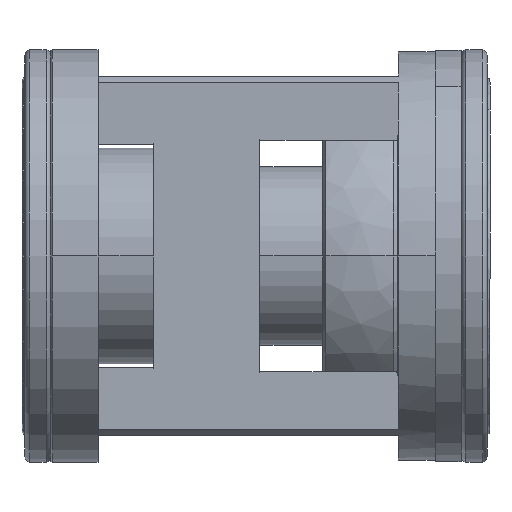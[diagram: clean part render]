
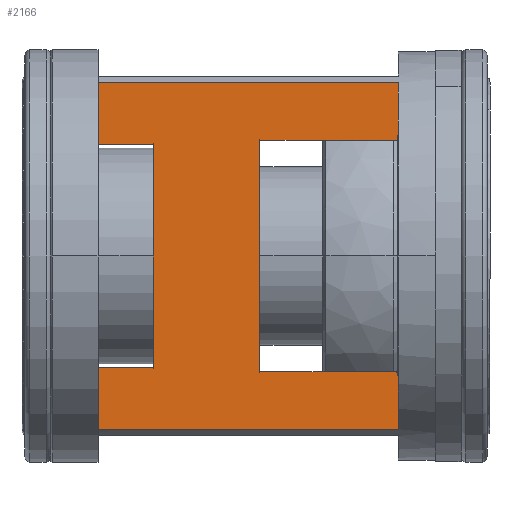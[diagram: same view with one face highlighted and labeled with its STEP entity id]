
A CAD part, front view. The second image highlights one B-rep face of the part: STEP entity #2166.
In plain terms, the highlighted planar face has unit normal (0, -1, 0).
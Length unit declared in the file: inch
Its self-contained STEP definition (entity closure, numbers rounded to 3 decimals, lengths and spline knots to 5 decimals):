
#21 = VERTEX_POINT ( 'NONE', #7694 ) ;
#26 = CARTESIAN_POINT ( 'NONE',  ( -0.76326, -0.38024, 0.17333 ) ) ;
#32 = VERTEX_POINT ( 'NONE', #2646 ) ;
#38 = CARTESIAN_POINT ( 'NONE',  ( 0.28208, -0.38024, -0.32809 ) ) ;
#117 = CARTESIAN_POINT ( 'NONE',  ( -0.99926, -0.38024, 0.65164 ) ) ;
#130 = DIRECTION ( 'NONE',  ( 0., 0., 1. ) ) ;
#176 = VERTEX_POINT ( 'NONE', #2842 ) ;
#219 = VECTOR ( 'NONE', #130, 39.37008 ) ;
#300 = ORIENTED_EDGE ( 'NONE', *, *, #5657, .F. ) ;
#435 = LINE ( 'NONE', #2371, #5883 ) ;
#444 = AXIS2_PLACEMENT_3D ( 'NONE', #484, #7512, #1747 ) ;
#453 = DIRECTION ( 'NONE',  ( -1., 0., 0. ) ) ;
#478 = B_SPLINE_CURVE_WITH_KNOTS ( 'NONE', 3,
 ( #4190, #3559, #6740, #2962 ),
 .UNSPECIFIED., .F., .F.,
 ( 4, 4 ),
 ( 0., 0.00017 ),
 .UNSPECIFIED. ) ;
#484 = CARTESIAN_POINT ( 'NONE',  ( 0.28874, -0.38024, -0.62688 ) ) ;
#494 = VERTEX_POINT ( 'NONE', #4410 ) ;
#651 = VECTOR ( 'NONE', #8119, 39.37008 ) ;
#668 = ORIENTED_EDGE ( 'NONE', *, *, #4785, .T. ) ;
#841 = VERTEX_POINT ( 'NONE', #7089 ) ;
#901 = VECTOR ( 'NONE', #3096, 39.37008 ) ;
#1058 = DIRECTION ( 'NONE',  ( -1., 0., 0. ) ) ;
#1083 = ORIENTED_EDGE ( 'NONE', *, *, #3956, .F. ) ;
#1108 = ORIENTED_EDGE ( 'NONE', *, *, #3048, .F. ) ;
#1216 = VERTEX_POINT ( 'NONE', #1866 ) ;
#1230 = DIRECTION ( 'NONE',  ( 0., 0., 1. ) ) ;
#1242 = CARTESIAN_POINT ( 'NONE',  ( 0.28127, -0.38024, -0.32613 ) ) ;
#1254 = EDGE_CURVE ( 'NONE', #2270, #7342, #7718, .T. ) ;
#1349 = VERTEX_POINT ( 'NONE', #4849 ) ;
#1422 = EDGE_LOOP ( 'NONE', ( #3686, #300, #8128, #668, #4149, #6697, #3393, #4501, #1083, #2489, #1108, #1818, #3875, #3966, #6003, #6166, #3760 ) ) ;
#1441 = CARTESIAN_POINT ( 'NONE',  ( 0.28874, -0.38024, -0.62688 ) ) ;
#1573 = EDGE_CURVE ( 'NONE', #176, #1216, #2136, .T. ) ;
#1709 = DIRECTION ( 'NONE',  ( -1., 0., 0. ) ) ;
#1744 = DIRECTION ( 'NONE',  ( 1., 0., 0. ) ) ;
#1747 = DIRECTION ( 'NONE',  ( 1., 0., 0. ) ) ;
#1818 = ORIENTED_EDGE ( 'NONE', *, *, #4847, .F. ) ;
#1866 = CARTESIAN_POINT ( 'NONE',  ( 0.27966, -0.38024, -0.32221 ) ) ;
#1878 = CARTESIAN_POINT ( 'NONE',  ( 0.28607, -0.38024, -0.33772 ) ) ;
#1914 = VERTEX_POINT ( 'NONE', #6715 ) ;
#1921 = CARTESIAN_POINT ( 'NONE',  ( 0.28874, -0.38024, -0.34411 ) ) ;
#1968 = LINE ( 'NONE', #4542, #901 ) ;
#2080 = LINE ( 'NONE', #5902, #5678 ) ;
#2136 = B_SPLINE_CURVE_WITH_KNOTS ( 'NONE', 3,
 ( #1921, #3736, #1878, #7054, #4456, #3224, #38, #1242, #5788, #3821 ),
 .UNSPECIFIED., .F., .F.,
 ( 4, 3, 3, 4 ),
 ( 0., 0.00026, 0.00044, 0.0006 ),
 .UNSPECIFIED. ) ;
#2166 = ADVANCED_FACE ( 'NONE', ( #4949 ), #4452, .T. ) ;
#2222 = VECTOR ( 'NONE', #5840, 39.37008 ) ;
#2247 = VECTOR ( 'NONE', #3868, 39.37008 ) ;
#2270 = VERTEX_POINT ( 'NONE', #2375 ) ;
#2278 = CARTESIAN_POINT ( 'NONE',  ( -0.99926, -0.38024, -0.62688 ) ) ;
#2330 = VERTEX_POINT ( 'NONE', #117 ) ;
#2371 = CARTESIAN_POINT ( 'NONE',  ( -0.89626, -0.38024, -0.32221 ) ) ;
#2375 = CARTESIAN_POINT ( 'NONE',  ( -0.76326, -0.38024, 0.17333 ) ) ;
#2390 = CARTESIAN_POINT ( 'NONE',  ( -0.89626, -0.38024, 0.66887 ) ) ;
#2425 = LINE ( 'NONE', #3057, #2729 ) ;
#2489 = ORIENTED_EDGE ( 'NONE', *, *, #7740, .F. ) ;
#2551 = CARTESIAN_POINT ( 'NONE',  ( -0.89626, -0.38024, 0.91642 ) ) ;
#2646 = CARTESIAN_POINT ( 'NONE',  ( -0.99926, -0.38024, -0.30498 ) ) ;
#2729 = VECTOR ( 'NONE', #6084, 39.37008 ) ;
#2831 = CARTESIAN_POINT ( 'NONE',  ( -0.30526, -0.38024, -0.32221 ) ) ;
#2836 = EDGE_CURVE ( 'NONE', #7036, #1349, #4823, .T. ) ;
#2842 = CARTESIAN_POINT ( 'NONE',  ( 0.28874, -0.38024, -0.34411 ) ) ;
#2875 = CARTESIAN_POINT ( 'NONE',  ( -0.99926, -0.38024, 0.91642 ) ) ;
#2911 = CARTESIAN_POINT ( 'NONE',  ( -0.76326, -0.38024, 0.65164 ) ) ;
#2962 = CARTESIAN_POINT ( 'NONE',  ( 0.28601, -0.38024, 0.68919 ) ) ;
#3048 = EDGE_CURVE ( 'NONE', #21, #32, #4891, .T. ) ;
#3057 = CARTESIAN_POINT ( 'NONE',  ( -0.30526, -0.38024, 0.17333 ) ) ;
#3096 = DIRECTION ( 'NONE',  ( 0., 0., 1. ) ) ;
#3174 = EDGE_CURVE ( 'NONE', #7342, #2330, #4846, .T. ) ;
#3224 = CARTESIAN_POINT ( 'NONE',  ( 0.28297, -0.38024, -0.33024 ) ) ;
#3263 = VECTOR ( 'NONE', #4140, 39.37008 ) ;
#3270 = LINE ( 'NONE', #2551, #2247 ) ;
#3360 = CARTESIAN_POINT ( 'NONE',  ( -0.76326, -0.38024, -0.30498 ) ) ;
#3393 = ORIENTED_EDGE ( 'NONE', *, *, #3174, .F. ) ;
#3482 = CARTESIAN_POINT ( 'NONE',  ( 0.28874, -0.38024, -0.62688 ) ) ;
#3493 = LINE ( 'NONE', #7994, #651 ) ;
#3559 = CARTESIAN_POINT ( 'NONE',  ( 0.28783, -0.38024, 0.68501 ) ) ;
#3686 = ORIENTED_EDGE ( 'NONE', *, *, #2836, .F. ) ;
#3736 = CARTESIAN_POINT ( 'NONE',  ( 0.2874, -0.38024, -0.34092 ) ) ;
#3760 = ORIENTED_EDGE ( 'NONE', *, *, #6609, .F. ) ;
#3800 = VECTOR ( 'NONE', #1058, 39.37008 ) ;
#3821 = CARTESIAN_POINT ( 'NONE',  ( 0.27966, -0.38024, -0.32221 ) ) ;
#3845 = EDGE_CURVE ( 'NONE', #494, #7381, #2425, .T. ) ;
#3868 = DIRECTION ( 'NONE',  ( 1., 0., 0. ) ) ;
#3875 = ORIENTED_EDGE ( 'NONE', *, *, #7953, .T. ) ;
#3902 = VECTOR ( 'NONE', #1230, 39.37008 ) ;
#3956 = EDGE_CURVE ( 'NONE', #7991, #2270, #1968, .T. ) ;
#3966 = ORIENTED_EDGE ( 'NONE', *, *, #1573, .T. ) ;
#4042 = LINE ( 'NONE', #3482, #219 ) ;
#4049 = CARTESIAN_POINT ( 'NONE',  ( -0.99926, -0.38024, -0.62688 ) ) ;
#4086 = EDGE_CURVE ( 'NONE', #7381, #1216, #435, .T. ) ;
#4140 = DIRECTION ( 'NONE',  ( 0., 0., 1. ) ) ;
#4149 = ORIENTED_EDGE ( 'NONE', *, *, #4392, .F. ) ;
#4190 = CARTESIAN_POINT ( 'NONE',  ( 0.28874, -0.38024, 0.68292 ) ) ;
#4325 = DIRECTION ( 'NONE',  ( 0., 0., -1. ) ) ;
#4392 = EDGE_CURVE ( 'NONE', #4511, #6843, #3270, .T. ) ;
#4410 = CARTESIAN_POINT ( 'NONE',  ( -0.30526, -0.38024, 0.66887 ) ) ;
#4419 = CARTESIAN_POINT ( 'NONE',  ( 0.28874, -0.38024, 0.91642 ) ) ;
#4452 = PLANE ( 'NONE',  #444 ) ;
#4456 = CARTESIAN_POINT ( 'NONE',  ( 0.28385, -0.38024, -0.33238 ) ) ;
#4501 = ORIENTED_EDGE ( 'NONE', *, *, #1254, .F. ) ;
#4511 = VERTEX_POINT ( 'NONE', #2875 ) ;
#4542 = CARTESIAN_POINT ( 'NONE',  ( -0.76326, -0.38024, 0.17333 ) ) ;
#4637 = DIRECTION ( 'NONE',  ( 0., 0., 1. ) ) ;
#4785 = EDGE_CURVE ( 'NONE', #1914, #6843, #5969, .T. ) ;
#4823 = LINE ( 'NONE', #7389, #5681 ) ;
#4830 = LINE ( 'NONE', #2390, #7738 ) ;
#4846 = LINE ( 'NONE', #6061, #3800 ) ;
#4847 = EDGE_CURVE ( 'NONE', #7272, #21, #3493, .T. ) ;
#4849 = CARTESIAN_POINT ( 'NONE',  ( 0.28574, -0.38024, 0.66887 ) ) ;
#4891 = LINE ( 'NONE', #2278, #3263 ) ;
#4949 = FACE_OUTER_BOUND ( 'NONE', #1422, .T. ) ;
#5657 = EDGE_CURVE ( 'NONE', #841, #7036, #2080, .T. ) ;
#5678 = VECTOR ( 'NONE', #1709, 39.37008 ) ;
#5681 = VECTOR ( 'NONE', #4325, 39.37008 ) ;
#5788 = CARTESIAN_POINT ( 'NONE',  ( 0.28047, -0.38024, -0.32417 ) ) ;
#5840 = DIRECTION ( 'NONE',  ( 1., 0., 0. ) ) ;
#5883 = VECTOR ( 'NONE', #1744, 39.37008 ) ;
#5902 = CARTESIAN_POINT ( 'NONE',  ( 0.44674, -0.38024, 0.68919 ) ) ;
#5969 = LINE ( 'NONE', #1441, #8313 ) ;
#6003 = ORIENTED_EDGE ( 'NONE', *, *, #4086, .F. ) ;
#6061 = CARTESIAN_POINT ( 'NONE',  ( -0.89626, -0.38024, 0.65164 ) ) ;
#6084 = DIRECTION ( 'NONE',  ( 0., 0., -1. ) ) ;
#6166 = ORIENTED_EDGE ( 'NONE', *, *, #3845, .F. ) ;
#6184 = EDGE_CURVE ( 'NONE', #1914, #841, #478, .T. ) ;
#6463 = CARTESIAN_POINT ( 'NONE',  ( 0.28874, -0.38024, -0.56976 ) ) ;
#6499 = EDGE_CURVE ( 'NONE', #2330, #4511, #7875, .T. ) ;
#6609 = EDGE_CURVE ( 'NONE', #1349, #494, #4830, .T. ) ;
#6697 = ORIENTED_EDGE ( 'NONE', *, *, #6499, .F. ) ;
#6715 = CARTESIAN_POINT ( 'NONE',  ( 0.28874, -0.38024, 0.68292 ) ) ;
#6740 = CARTESIAN_POINT ( 'NONE',  ( 0.28692, -0.38024, 0.6871 ) ) ;
#6843 = VERTEX_POINT ( 'NONE', #4419 ) ;
#7036 = VERTEX_POINT ( 'NONE', #7307 ) ;
#7054 = CARTESIAN_POINT ( 'NONE',  ( 0.28474, -0.38024, -0.33452 ) ) ;
#7089 = CARTESIAN_POINT ( 'NONE',  ( 0.28601, -0.38024, 0.68919 ) ) ;
#7111 = CARTESIAN_POINT ( 'NONE',  ( -0.89626, -0.38024, -0.30498 ) ) ;
#7196 = VECTOR ( 'NONE', #4637, 39.37008 ) ;
#7272 = VERTEX_POINT ( 'NONE', #6463 ) ;
#7307 = CARTESIAN_POINT ( 'NONE',  ( 0.28574, -0.38024, 0.68919 ) ) ;
#7342 = VERTEX_POINT ( 'NONE', #2911 ) ;
#7381 = VERTEX_POINT ( 'NONE', #2831 ) ;
#7389 = CARTESIAN_POINT ( 'NONE',  ( 0.28574, -0.38024, -0.62688 ) ) ;
#7512 = DIRECTION ( 'NONE',  ( 0., -1., 0. ) ) ;
#7653 = LINE ( 'NONE', #7111, #2222 ) ;
#7694 = CARTESIAN_POINT ( 'NONE',  ( -0.99926, -0.38024, -0.56976 ) ) ;
#7718 = LINE ( 'NONE', #26, #3902 ) ;
#7738 = VECTOR ( 'NONE', #453, 39.37008 ) ;
#7740 = EDGE_CURVE ( 'NONE', #32, #7991, #7653, .T. ) ;
#7875 = LINE ( 'NONE', #4049, #7196 ) ;
#7921 = DIRECTION ( 'NONE',  ( 0., 0., 1. ) ) ;
#7953 = EDGE_CURVE ( 'NONE', #7272, #176, #4042, .T. ) ;
#7991 = VERTEX_POINT ( 'NONE', #3360 ) ;
#7994 = CARTESIAN_POINT ( 'NONE',  ( -0.89626, -0.38024, -0.56976 ) ) ;
#8119 = DIRECTION ( 'NONE',  ( -1., 0., 0. ) ) ;
#8128 = ORIENTED_EDGE ( 'NONE', *, *, #6184, .F. ) ;
#8313 = VECTOR ( 'NONE', #7921, 39.37008 ) ;
